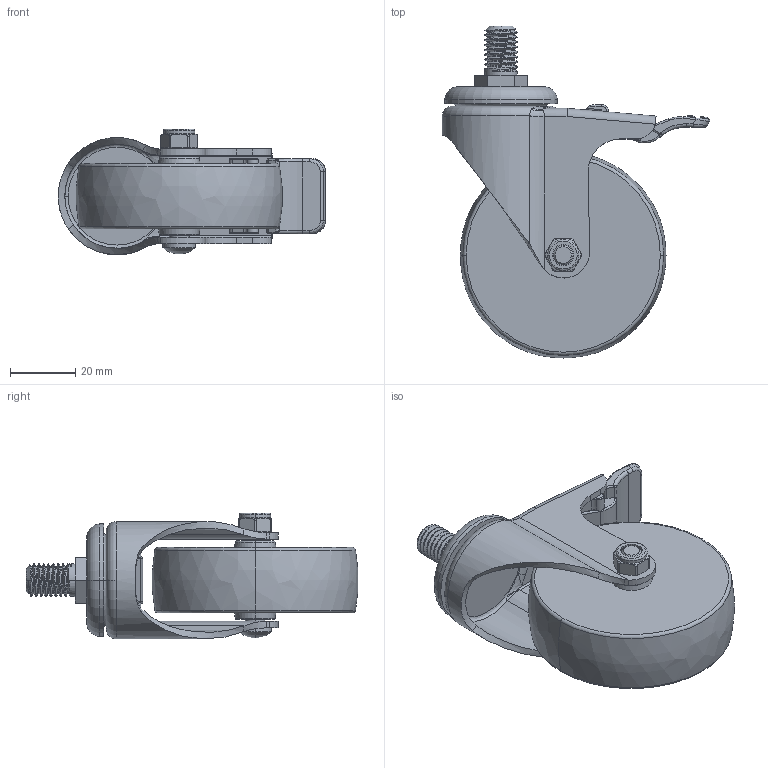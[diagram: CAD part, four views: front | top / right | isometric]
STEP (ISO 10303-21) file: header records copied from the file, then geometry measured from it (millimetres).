
FILE_DESCRIPTION((''),'2;1');
FILE_NAME('261115-2615-83_ASM','2019-12-13T',('L'),(''),'PRO/ENGINEER BY PARAMETRIC TECHNOLOGY CORPORATION, 2010280','PRO/ENGINEER BY PARAMETRIC TECHNOLOGY CORPORATION, 2010280','');
FILE_SCHEMA(('CONFIG_CONTROL_DESIGN'));
Length unit declared in the file: millimetre
Products named in the file (6): 261425; 2625-83; 2610-020; 2610-031; 2600-512; 261115-2615-83_ASM
Assembly tree (5 placements, depth 2):
  261115-2615-83_ASM
    261425
    2625-83
    2610-020
    2610-031
    2600-512
Bounding box: 81.69 x 101.4 x 38.43 mm (x, y, z)
Volume: 80684.6 mm3; surface area: 26526.3 mm2
Topology: 5 solids, 5 shells, 341 faces, 824 edges, 499 vertices
Faces by surface type: cylinder 124, plane 90, bspline 53, torus 52, cone 20, sphere 2
Entity records: 14285 total; most frequent: CARTESIAN_POINT 6501, ORIENTED_EDGE 1636, DIRECTION 1566, EDGE_CURVE 818, AXIS2_PLACEMENT_3D 622, VERTEX_POINT 499, EDGE_LOOP 363, FACE_OUTER_BOUND 341
